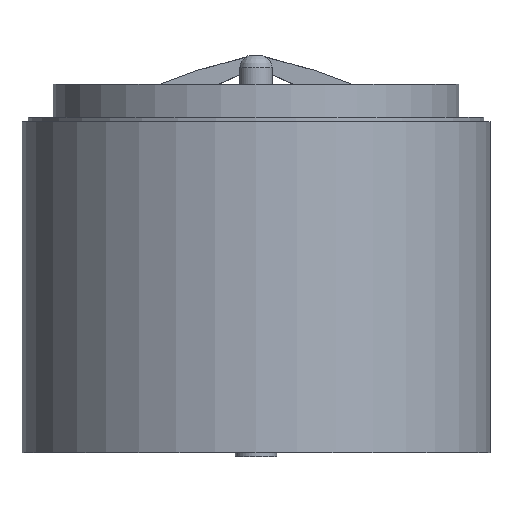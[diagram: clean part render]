
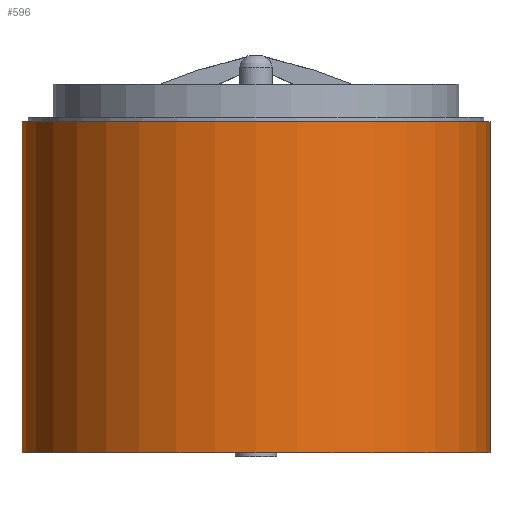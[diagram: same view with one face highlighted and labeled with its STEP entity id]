
A CAD part, front view. The second image highlights one B-rep face of the part: STEP entity #596.
In plain terms, the highlighted cylindrical face has radius 56.5 mm (diameter 113 mm), a full revolution.
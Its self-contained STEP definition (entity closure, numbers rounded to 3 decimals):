
#108=FACE_BOUND('',#204,.T.);
#146=FACE_OUTER_BOUND('',#203,.T.);
#203=EDGE_LOOP('',(#504));
#204=EDGE_LOOP('',(#505));
#242=CIRCLE('',#679,56.5);
#243=CIRCLE('',#680,56.5);
#296=VERTEX_POINT('',#1112);
#297=VERTEX_POINT('',#1114);
#366=EDGE_CURVE('',#296,#296,#242,.T.);
#367=EDGE_CURVE('',#297,#297,#243,.T.);
#504=ORIENTED_EDGE('',*,*,#366,.F.);
#505=ORIENTED_EDGE('',*,*,#367,.F.);
#522=CYLINDRICAL_SURFACE('',#678,56.5);
#596=ADVANCED_FACE('',(#146,#108),#522,.T.);
#678=AXIS2_PLACEMENT_3D('',#1111,#842,#843);
#679=AXIS2_PLACEMENT_3D('',#1113,#844,#845);
#680=AXIS2_PLACEMENT_3D('',#1115,#846,#847);
#842=DIRECTION('center_axis',(0.,0.,1.));
#843=DIRECTION('ref_axis',(-1.,0.,0.));
#844=DIRECTION('center_axis',(0.,0.,-1.));
#845=DIRECTION('ref_axis',(-1.,0.,0.));
#846=DIRECTION('center_axis',(0.,0.,1.));
#847=DIRECTION('ref_axis',(-1.,0.,0.));
#1111=CARTESIAN_POINT('Origin',(0.,0.,0.));
#1112=CARTESIAN_POINT('',(-56.5,0.,0.));
#1113=CARTESIAN_POINT('Origin',(0.,0.,0.));
#1114=CARTESIAN_POINT('',(56.5,0.,80.));
#1115=CARTESIAN_POINT('Origin',(0.,0.,80.));
